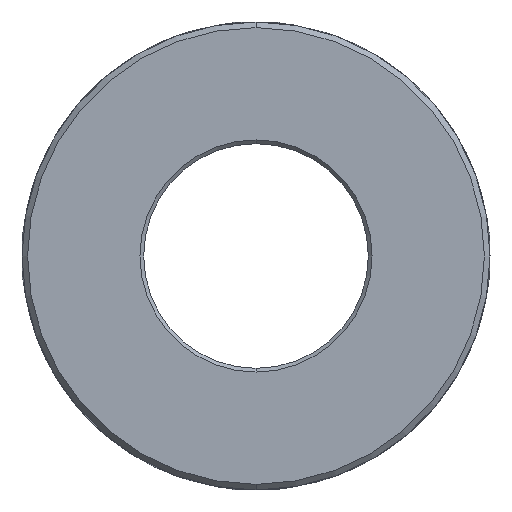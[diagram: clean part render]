
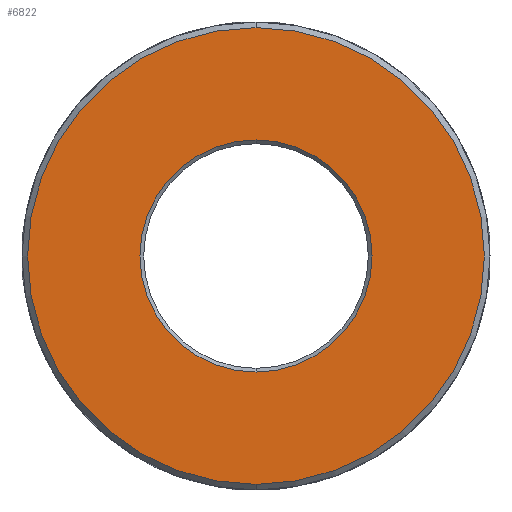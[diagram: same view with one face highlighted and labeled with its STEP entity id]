
A CAD part, front view. The second image highlights one B-rep face of the part: STEP entity #6822.
In plain terms, the highlighted planar face has unit normal (0, -1, 0).
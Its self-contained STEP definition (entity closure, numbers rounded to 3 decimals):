
#207 = CARTESIAN_POINT ( 'NONE',  ( 0., 0., 0. ) ) ;
#246 = EDGE_CURVE ( 'NONE', #2535, #5795, #1428, .T. ) ;
#413 = CARTESIAN_POINT ( 'NONE',  ( 0., 0., 0. ) ) ;
#1177 = DIRECTION ( 'NONE',  ( 0., -1., 0. ) ) ;
#1428 = CIRCLE ( 'NONE', #5388, 12.4 ) ;
#1618 = CARTESIAN_POINT ( 'NONE',  ( 0., 0., -24.4 ) ) ;
#1764 = DIRECTION ( 'NONE',  ( 0., 0., 1. ) ) ;
#1782 = AXIS2_PLACEMENT_3D ( 'NONE', #4948, #3190, #7340 ) ;
#1865 = EDGE_CURVE ( 'NONE', #5795, #2535, #3451, .T. ) ;
#2535 = VERTEX_POINT ( 'NONE', #6029 ) ;
#2675 = CIRCLE ( 'NONE', #3477, 24.4 ) ;
#2684 = AXIS2_PLACEMENT_3D ( 'NONE', #413, #1177, #7662 ) ;
#2713 = CARTESIAN_POINT ( 'NONE',  ( 0., 0., 0. ) ) ;
#2850 = VERTEX_POINT ( 'NONE', #3522 ) ;
#2898 = CARTESIAN_POINT ( 'NONE',  ( 0., 0., 0. ) ) ;
#3120 = DIRECTION ( 'NONE',  ( 0., 1., 0. ) ) ;
#3144 = ORIENTED_EDGE ( 'NONE', *, *, #5240, .T. ) ;
#3190 = DIRECTION ( 'NONE',  ( 0., 1., 0. ) ) ;
#3203 = DIRECTION ( 'NONE',  ( 0., 1., 0. ) ) ;
#3322 = EDGE_LOOP ( 'NONE', ( #5512, #4215 ) ) ;
#3451 = CIRCLE ( 'NONE', #6470, 12.4 ) ;
#3477 = AXIS2_PLACEMENT_3D ( 'NONE', #2898, #7006, #1764 ) ;
#3522 = CARTESIAN_POINT ( 'NONE',  ( 0., 0., 24.4 ) ) ;
#3692 = CIRCLE ( 'NONE', #2684, 24.4 ) ;
#4215 = ORIENTED_EDGE ( 'NONE', *, *, #1865, .T. ) ;
#4594 = EDGE_LOOP ( 'NONE', ( #6728, #3144 ) ) ;
#4948 = CARTESIAN_POINT ( 'NONE',  ( -50., 0., 32.858 ) ) ;
#5240 = EDGE_CURVE ( 'NONE', #5497, #2850, #2675, .T. ) ;
#5388 = AXIS2_PLACEMENT_3D ( 'NONE', #207, #3120, #6613 ) ;
#5497 = VERTEX_POINT ( 'NONE', #1618 ) ;
#5512 = ORIENTED_EDGE ( 'NONE', *, *, #246, .T. ) ;
#5626 = DIRECTION ( 'NONE',  ( 0., 0., 1. ) ) ;
#5640 = PLANE ( 'NONE',  #1782 ) ;
#5795 = VERTEX_POINT ( 'NONE', #6545 ) ;
#6029 = CARTESIAN_POINT ( 'NONE',  ( 0., 0., -12.4 ) ) ;
#6470 = AXIS2_PLACEMENT_3D ( 'NONE', #2713, #3203, #5626 ) ;
#6545 = CARTESIAN_POINT ( 'NONE',  ( 0., 0., 12.4 ) ) ;
#6613 = DIRECTION ( 'NONE',  ( 0., 0., 1. ) ) ;
#6724 = FACE_OUTER_BOUND ( 'NONE', #4594, .T. ) ;
#6728 = ORIENTED_EDGE ( 'NONE', *, *, #7182, .T. ) ;
#6822 = ADVANCED_FACE ( 'NONE', ( #7108, #6724 ), #5640, .F. ) ;
#7006 = DIRECTION ( 'NONE',  ( 0., -1., 0. ) ) ;
#7108 = FACE_BOUND ( 'NONE', #3322, .T. ) ;
#7182 = EDGE_CURVE ( 'NONE', #2850, #5497, #3692, .T. ) ;
#7340 = DIRECTION ( 'NONE',  ( 0., 0., 1. ) ) ;
#7662 = DIRECTION ( 'NONE',  ( 0., 0., 1. ) ) ;
